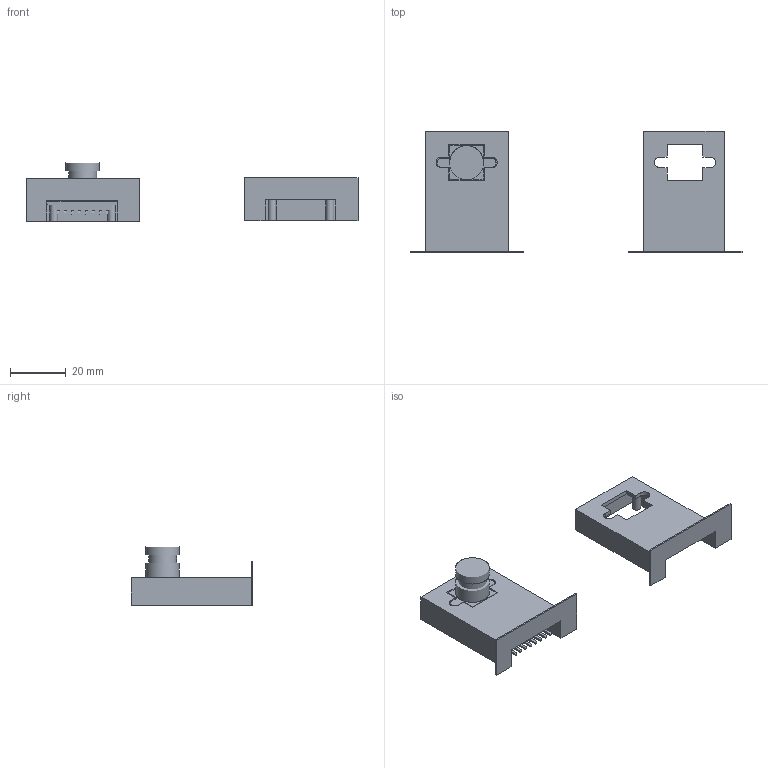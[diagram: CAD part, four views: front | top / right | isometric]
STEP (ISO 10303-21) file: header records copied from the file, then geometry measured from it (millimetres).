
FILE_DESCRIPTION(/* description */ ('STEP AP242 Edition 2','CAx-IF Rec.Pracs.---Representation and Presentation of Product Manufacturing Information (PMI)---4.0---2014-10-13','CAx-IF Rec.Pracs.---3D Tessellated Geometry---0.4---2014-09-14','2;1','CAx-IF Rec.Pracs.---User Defined Attributes---1.5---2016-08-15'),/* implementation_level */ '2;1');
FILE_NAME(/* name */ 'Arducam + mount',/* time_stamp */ '2026-02-01T16:55:26Z',/* author */ (''),/* organization */ (''),/* preprocessor_version */ 'ST-DEVELOPER v20',/* originating_system */ 'ONSHAPE BY PTC INC, 1.210',/* authorisation */ ' ');
FILE_SCHEMA (('AP242_MANAGED_MODEL_BASED_3D_ENGINEERING_MIM_LF { 1 0 10303 442 3 1 4 }'));
Length unit declared in the file: centimetre
Products named in the file (3): id2; Part 2; Part 1
Bounding box: 118.58 x 43.41 x 21.04 mm (x, y, z)
Volume: 3023.2 mm3; surface area: 13187.8 mm2
Topology: 1 solids, 21 shells, 101 faces, 180 edges, 128 vertices
Faces by surface type: plane 52, other 41, cylinder 8
Full cylindrical faces by diameter (mm): 2.816 x2, 2.856 x2
Entity records: 2730 total; most frequent: CARTESIAN_POINT 551, ORIENTED_EDGE 328, DIRECTION 294, EDGE_CURVE 176, LINE 136, VECTOR 136, VERTEX_POINT 128, EDGE_LOOP 90
